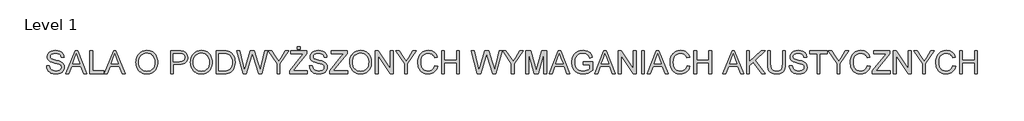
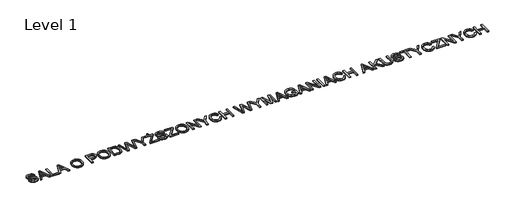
# One storey, part 3 of 4: 1 proxy.
"""IFC4 building model written with IfcOpenShell, lengths in millimetres."""

from ifc_helpers import new_model, si_unit, origin, origin_with_axes, place, context, project, spatial, polyline, outline, extrude, element, save

model = new_model("IFC4")

# Units and contexts
model_context = context("Model", 3, world=origin())
ifc_project = project(units=[si_unit("LENGTHUNIT", "METRE", prefix="MILLI")], contexts=[model_context])

# Site, building, storey
site = spatial("IfcSite", under=ifc_project)
building = spatial("IfcBuilding", under=site)
storey = spatial("IfcBuildingStorey", under=building, Name="Level 1", Elevation=0.0)

# Proxy
placement = place(None, origin())
element("IfcBuildingElementProxy", 1, Name="600mm Arial", ObjectType="600mm Arial", at=placement, inside=storey, context=model_context, shape_type="SweptSolid", body=[
    extrude(outline(polyline([(-9094.9870049, -1373.0707326), (-9019.6447723, -1373.0707326), (-9010.9995454, -1414.8805213), (-8995.3645606, -1448.4865416), (-8970.9739843, -1475.1579862), (-8936.061983, -1496.1640482), (-8893.3876715, -1509.7940761), (-8845.710165, -1514.3374187), (-8803.7348293, -1510.8977221), (-8766.983418, -1500.5786321), (-8737.2033705, -1484.2446715), (-8716.1421262, -1462.760363), (-8703.6157443, -1438.0938752), (-8699.4402837, -1412.2133769), (-8702.5672806, -1386.9950661), (-8711.9482715, -1365.1980579), (-8731.0045589, -1346.601623), (-8763.1574452, -1330.9850323), (-8872.8598562, -1302.2166603), (-8944.8727568, -1283.1787671), (-8990.9499766, -1265.0605788), (-9028.4555461, -1239.7135093), (-9055.0350202, -1208.9953627), (-9070.8723401, -1173.5683266), (-9076.1514467, -1134.0945885), (-9074.5189704, -1111.6583853), (-9069.6215413, -1089.9671432), (-9061.4591595, -1069.0208621), (-9050.0318251, -1048.819542), (-9035.4682966, -1030.186319), (-9017.8973328, -1013.9443289), (-8997.3189337, -1000.0935718), (-8973.7330993, -988.6340476), (-8920.7213038, -973.2381861), (-8862.0441255, -968.1062323), (-8798.4741168, -973.4773094), (-8742.8503591, -989.5905408), (-8718.5149651, -1001.5926909), (-8697.1594153, -1016.1148327), (-8678.7837096, -1033.1569661), (-8663.3878481, -1052.7190912), (-8651.0913925, -1074.2309908), (-8642.0139042, -1097.122448), (-8636.1553834, -1121.3934626), (-8633.5158301, -1147.0440347), (-8708.8580627, -1147.0440347), (-8713.8980461, -1123.0029464), (-8722.6904258, -1102.0888549), (-8735.2352018, -1084.3017605), (-8751.5323742, -1069.641663), (-8771.8854456, -1058.1821388), (-8796.5979186, -1049.9967644), (-8825.6697933, -1045.0855398), (-8859.1010696, -1043.4484649), (-8893.5992037, -1045.0671457), (-8923.0757485, -1049.923188), (-8947.5307042, -1058.0165919), (-8966.9640706, -1069.3473574), (-8981.7713209, -1082.9681882), (-8992.3479282, -1097.9317884), (-8998.6938926, -1114.2381578), (-9000.8092141, -1131.8872965), (-8999.310095, -1147.0716259), (-8994.8127376, -1160.8396096), (-8987.3171419, -1173.1912475), (-8976.823308, -1184.1265399), (-8960.3054064, -1194.482418), (-8934.2961494, -1204.9486608), (-8853.8035688, -1226.2122401), (-8770.7358143, -1246.4089616), (-8720.4831338, -1264.0305092), (-8677.5329109, -1291.3641414), (-8660.9276373, -1307.4313876), (-8647.5689223, -1325.0989204), (-8637.3004162, -1344.2747694), (-8629.9657689, -1364.8669641), (-8624.0980511, -1410.3003905), (-8625.7857097, -1433.8678308), (-8630.8486857, -1456.7454924), (-8639.2869789, -1478.9333752), (-8651.1005895, -1500.4314793), (-8666.0825838, -1520.4074716), (-8684.0260281, -1538.0290192), (-8704.9309224, -1553.296122), (-8728.7972669, -1566.20878), (-8754.9306841, -1576.4772862), (-8782.6367969, -1583.8119335), (-8842.767109, -1589.6796513), (-8881.3073465, -1588.0977588), (-8916.5826313, -1583.352081), (-8948.5929634, -1575.4426181), (-8977.3383428, -1564.3693701), (-9002.9935135, -1550.1139428), (-9025.7332193, -1532.6579421), (-9045.5574603, -1512.0013681), (-9062.4662365, -1488.1442207), (-9076.0870674, -1461.8590521), (-9086.0474724, -1433.9184146), (-9092.3474516, -1404.3223081), (-9094.9870049, -1373.0707326)])), origin_with_axes(), (0.0, 0.0, 1.0), 50.0),
    extrude(outline(polyline([(-8581.2765868, -1580.2618723), (-8340.681762, -977.5240114), (-8276.523142, -977.5240114), (-8035.9283172, -1580.2618723), (-8115.5379809, -1580.2618723), (-8184.5526432, -1391.9062907), (-8432.7994136, -1391.9062907), (-8501.6669231, -1580.2618723), (-8581.2765868, -1580.2618723)]), holes=[polyline([(-8405.1346875, -1316.5640581), (-8212.0702165, -1316.5640581), (-8266.3695989, -1168.3811905), (-8308.602452, -1052.866244), (-8346.1264155, -1155.4317442), (-8405.1346875, -1316.5640581)])]), origin_with_axes(), (0.0, 0.0, 1.0), 50.0),
    extrude(outline(polyline([(-7955.4357366, -1580.2618723), (-7955.4357366, -977.5240114), (-7880.093504, -977.5240114), (-7880.093504, -1504.9196396), (-7578.7245736, -1504.9196396), (-7578.7245736, -1580.2618723), (-7955.4357366, -1580.2618723)])), origin_with_axes(), (0.0, 0.0, 1.0), 50.0),
    extrude(outline(polyline([(-7564.1564466, -1580.2618723), (-7323.5616217, -977.5240114), (-7259.4030017, -977.5240114), (-7018.8081769, -1580.2618723), (-7098.4178407, -1580.2618723), (-7167.432503, -1391.9062907), (-7415.6792733, -1391.9062907), (-7484.5467828, -1580.2618723), (-7564.1564466, -1580.2618723)]), holes=[polyline([(-7388.0145473, -1316.5640581), (-7194.9500762, -1316.5640581), (-7249.2494587, -1168.3811905), (-7291.4823117, -1052.866244), (-7329.0062752, -1155.4317442), (-7388.0145473, -1316.5640581)])]), origin_with_axes(), (0.0, 0.0, 1.0), 50.0),
    extrude(outline(polyline([(-6731.1244567, -1286.8391929), (-6726.1028674, -1216.1414705), (-6711.0380997, -1153.5555461), (-6685.9301536, -1099.0814196), (-6669.6099886, -1074.8862806), (-6650.7790289, -1052.7190912), (-6607.6908502, -1015.7009654), (-6558.7717419, -989.259447), (-6504.021704, -973.394536), (-6443.4407364, -968.1062323), (-6402.8909435, -970.5894358), (-6364.3828957, -978.0390462), (-6327.9165929, -990.4550635), (-6293.4920352, -1007.8374878), (-6262.0749128, -1029.6620871), (-6234.630916, -1055.4046297), (-6211.1600447, -1085.0651156), (-6191.6622989, -1118.6435447), (-6176.3400138, -1155.3765619), (-6165.3955245, -1194.5008121), (-6158.8288309, -1236.0162953), (-6156.639933, -1279.9230114), (-6158.943794, -1324.4091417), (-6165.855377, -1366.4856449), (-6177.374682, -1406.152521), (-6193.5017089, -1443.4097701), (-6213.8547803, -1477.2733077), (-6238.0522185, -1506.7590496), (-6266.0940236, -1531.8669958), (-6297.9801956, -1552.5971462), (-6332.455337, -1568.8207422), (-6368.2640507, -1580.4090251), (-6405.4063367, -1587.3619948), (-6443.8821948, -1589.6796513), (-6485.1401606, -1587.1182729), (-6524.1540462, -1579.4341378), (-6560.9238516, -1566.6272458), (-6595.4495769, -1548.6975971), (-6626.829911, -1526.3395688), (-6654.1635433, -1500.2475383), (-6677.4504736, -1470.4215055), (-6696.6907019, -1436.8614705), (-6711.7554696, -1400.9148011), (-6722.516018, -1363.928865), (-6728.972347, -1325.9036623), (-6731.1244567, -1286.8391929)]), holes=[polyline([(-6655.7822241, -1287.5749569), (-6652.0160321, -1337.5241348), (-6640.7174564, -1381.8631123), (-6621.8864967, -1420.5918893), (-6595.5231533, -1453.7104659), (-6563.4760329, -1480.2347578), (-6527.5937428, -1499.1806805), (-6487.8762829, -1510.5482342), (-6444.3236532, -1514.3374187), (-6400.0260625, -1510.511446), (-6359.839553, -1499.0335277), (-6323.7641249, -1479.903664), (-6291.799778, -1453.1218547), (-6265.6295726, -1419.3043023), (-6246.9365687, -1379.0672091), (-6235.7207664, -1332.4105751), (-6231.9821656, -1279.3344002), (-6233.5824523, -1244.8546602), (-6238.3833123, -1212.6373945), (-6246.3847457, -1182.682603), (-6257.5867525, -1154.9902858), (-6271.8651724, -1129.9237264), (-6289.0958454, -1107.8462082), (-6309.2787713, -1088.7577311), (-6332.4139503, -1072.6582953), (-6357.7840124, -1059.8789945), (-6384.6715877, -1050.7509225), (-6413.0766763, -1045.2740793), (-6442.9992781, -1043.4484649), (-6485.0389931, -1046.9663365), (-6524.0436816, -1057.5199512), (-6560.0133437, -1075.1093091), (-6592.9479793, -1099.7344102), (-6620.4379614, -1132.5816738), (-6640.0736629, -1174.8375195), (-6651.8550838, -1226.5019472), (-6655.7822241, -1287.5749569)])]), origin_with_axes(), (0.0, 0.0, 1.0), 50.0),
    extrude(outline(polyline([(-5817.5998863, -1580.2618723), (-5817.5998863, -977.5240114), (-5594.2219388, -977.5240114), (-5542.2034247, -978.9587511), (-5504.1644264, -983.2629705), (-5464.0101066, -993.9867306), (-5430.9559093, -1011.4427313), (-5404.339647, -1036.4219188), (-5383.4991319, -1069.7152394), (-5370.0346509, -1108.9866423), (-5365.5464906, -1151.9000771), (-5368.5769185, -1188.8998087), (-5377.6682023, -1222.9380903), (-5392.820342, -1254.0149219), (-5414.0333375, -1282.1303034), (-5443.155796, -1305.4356278), (-5482.0363244, -1322.082288), (-5530.6749226, -1332.0702842), (-5589.0715908, -1335.3996163), (-5742.2576536, -1335.3996163), (-5742.2576536, -1580.2618723), (-5817.5998863, -1580.2618723)]), holes=[polyline([(-5742.2576536, -1260.0573837), (-5584.6570069, -1260.0573837), (-5548.4206304, -1258.3283383), (-5517.8496366, -1253.1412021), (-5492.9440255, -1244.4959753), (-5473.7037972, -1232.3926576), (-5459.3472023, -1217.153146), (-5449.0924917, -1199.0993371), (-5442.9396653, -1178.2312309), (-5440.8887232, -1154.5488274), (-5445.7263714, -1120.7036839), (-5460.2393161, -1092.1560411), (-5482.6249355, -1070.6717325), (-5511.0806079, -1058.0165919), (-5540.1432855, -1054.153831), (-5586.4228405, -1052.866244), (-5742.2576536, -1052.866244), (-5742.2576536, -1260.0573837)])]), origin_with_axes(), (0.0, 0.0, 1.0), 50.0),
    extrude(outline(polyline([(-5290.204258, -1286.8391929), (-5285.1826687, -1216.1414705), (-5270.117901, -1153.5555461), (-5245.0099549, -1099.0814196), (-5228.6897898, -1074.8862806), (-5209.8588302, -1052.7190912), (-5166.7706515, -1015.7009654), (-5117.8515432, -989.259447), (-5063.1015053, -973.394536), (-5002.5205377, -968.1062323), (-4961.9707448, -970.5894358), (-4923.462697, -978.0390462), (-4886.9963942, -990.4550635), (-4852.5718365, -1007.8374878), (-4821.1547141, -1029.6620871), (-4793.7107173, -1055.4046297), (-4770.239846, -1085.0651156), (-4750.7421002, -1118.6435447), (-4735.4198151, -1155.3765619), (-4724.4753258, -1194.5008121), (-4717.9086322, -1236.0162953), (-4715.7197343, -1279.9230114), (-4718.0235953, -1324.4091417), (-4724.9351783, -1366.4856449), (-4736.4544833, -1406.152521), (-4752.5815102, -1443.4097701), (-4772.9345816, -1477.2733077), (-4797.1320198, -1506.7590496), (-4825.1738249, -1531.8669958), (-4857.0599968, -1552.5971462), (-4891.5351383, -1568.8207422), (-4927.343852, -1580.4090251), (-4964.486138, -1587.3619948), (-5002.9619961, -1589.6796513), (-5044.2199619, -1587.1182729), (-5083.2338475, -1579.4341378), (-5120.0036529, -1566.6272458), (-5154.5293781, -1548.6975971), (-5185.9097123, -1526.3395688), (-5213.2433446, -1500.2475383), (-5236.5302749, -1470.4215055), (-5255.7705032, -1436.8614705), (-5270.8352709, -1400.9148011), (-5281.5958193, -1363.928865), (-5288.0521483, -1325.9036623), (-5290.204258, -1286.8391929)]), holes=[polyline([(-5214.8620254, -1287.5749569), (-5211.0958334, -1337.5241348), (-5199.7972577, -1381.8631123), (-5180.966298, -1420.5918893), (-5154.6029545, -1453.7104659), (-5122.5558342, -1480.2347578), (-5086.6735441, -1499.1806805), (-5046.9560842, -1510.5482342), (-5003.4034545, -1514.3374187), (-4959.1058638, -1510.511446), (-4918.9193543, -1499.0335277), (-4882.8439262, -1479.903664), (-4850.8795793, -1453.1218547), (-4824.7093739, -1419.3043023), (-4806.01637, -1379.0672091), (-4794.8005677, -1332.4105751), (-4791.0619669, -1279.3344002), (-4792.6622536, -1244.8546602), (-4797.4631136, -1212.6373945), (-4805.464547, -1182.682603), (-4816.6665538, -1154.9902858), (-4830.9449737, -1129.9237264), (-4848.1756467, -1107.8462082), (-4868.3585726, -1088.7577311), (-4891.4937516, -1072.6582953), (-4916.8638137, -1059.8789945), (-4943.751389, -1050.7509225), (-4972.1564776, -1045.2740793), (-5002.0790793, -1043.4484649), (-5044.1187943, -1046.9663365), (-5083.1234829, -1057.5199512), (-5119.093145, -1075.1093091), (-5152.0277806, -1099.7344102), (-5179.5177627, -1132.5816738), (-5199.1534642, -1174.8375195), (-5210.9348851, -1226.5019472), (-5214.8620254, -1287.5749569)])]), origin_with_axes(), (0.0, 0.0, 1.0), 50.0),
    extrude(outline(polyline([(-4612.1241645, -1580.2618723), (-4612.1241645, -977.5240114), (-4404.1972608, -977.5240114), (-4342.0619918, -979.6945151), (-4296.6285654, -986.2060264), (-4248.5831768, -1002.9446572), (-4208.042581, -1029.3217963), (-4185.7029468, -1050.8796812), (-4166.3615509, -1075.2334693), (-4150.0183933, -1102.3831605), (-4136.6734739, -1132.3287549), (-4126.3083987, -1164.794341), (-4118.9047735, -1199.5040073), (-4112.9818734, -1275.6555803), (-4116.9917871, -1340.3476291), (-4129.0215284, -1397.2773679), (-4147.3420518, -1445.7458207), (-4170.2243119, -1485.0540119), (-4196.5646627, -1516.0848582), (-4225.2594583, -1539.7212764), (-4258.203291, -1557.2508535), (-4297.290753, -1569.9611764), (-4342.5954207, -1577.6866983), (-4394.1908705, -1580.2618723), (-4612.1241645, -1580.2618723)]), holes=[polyline([(-4536.7819318, -1504.9196396), (-4403.4614968, -1504.9196396), (-4348.3159857, -1502.1973129), (-4306.4878029, -1494.0303326), (-4274.9235277, -1480.8969454), (-4250.5697396, -1463.2753978), (-4224.3949356, -1430.6626589), (-4204.731643, -1388.4482), (-4192.4259903, -1336.44808), (-4188.324106, -1274.4783579), (-4190.3336614, -1230.7371886), (-4196.3623276, -1192.3670965), (-4206.4101046, -1159.3680816), (-4220.4769924, -1131.7401437), (-4237.4225568, -1108.8578836), (-4256.1063636, -1090.0959019), (-4276.5284129, -1075.4541985), (-4298.6887046, -1064.9327734), (-4342.0252036, -1055.8828763), (-4405.521636, -1052.866244), (-4536.7819318, -1052.866244), (-4536.7819318, -1504.9196396)])]), origin_with_axes(), (0.0, 0.0, 1.0), 50.0),
    extrude(outline(polyline([(-3901.5233026, -1580.2618723), (-4065.892978, -977.5240114), (-3988.1963006, -977.5240114), (-3892.8412875, -1373.6593438), (-3863.4107279, -1495.943319), (-3831.9200291, -1387.7860124), (-3712.4319571, -977.5240114), (-3600.4486777, -977.5240114), (-3513.6285269, -1274.9198163), (-3476.4356571, -1385.2844148), (-3449.0284485, -1495.943319), (-3420.4808057, -1377.1910109), (-3324.2428757, -977.5240114), (-3246.5461984, -977.5240114), (-3411.0630266, -1580.2618723), (-3491.5556071, -1580.2618723), (-3636.0596549, -1115.2590304), (-3656.2195882, -1050.3646464), (-3678.8811191, -1128.5027822), (-3810.5828734, -1580.2618723), (-3901.5233026, -1580.2618723)])), origin_with_axes(), (0.0, 0.0, 1.0), 50.0),
    extrude(outline(polyline([(-3001.6839424, -1580.2618723), (-3001.6839424, -1324.9517676), (-3237.1284193, -977.5240114), (-3148.2481292, -977.5240114), (-3022.5796397, -1163.0836897), (-2958.2738669, -1257.7029389), (-2893.8209414, -1156.314661), (-2779.7775229, -977.5240114), (-2690.8972328, -977.5240114), (-2926.3417098, -1324.9517676), (-2926.3417098, -1580.2618723), (-3001.6839424, -1580.2618723)])), origin_with_axes(), (0.0, 0.0, 1.0), 50.0),
    extrude(outline(polyline([(-2464.870535, -939.8528951), (-2464.870535, -864.5106624), (-2389.5283024, -864.5106624), (-2389.5283024, -939.8528951), (-2464.870535, -939.8528951)])), origin_with_axes(), (0.0, 0.0, 1.0), 50.0),
    extrude(outline(polyline([(-2672.0616747, -1580.2618723), (-2672.0616747, -1502.1237365), (-2363.7765627, -1124.6768094), (-2305.2097491, -1052.866244), (-2634.3905584, -1052.866244), (-2634.3905584, -977.5240114), (-2210.5904999, -977.5240114), (-2210.5904999, -1052.866244), (-2548.0118659, -1465.9241482), (-2579.7968703, -1504.9196396), (-2201.1727209, -1504.9196396), (-2201.1727209, -1580.2618723), (-2672.0616747, -1580.2618723)])), origin_with_axes(), (0.0, 0.0, 1.0), 50.0),
    extrude(outline(polyline([(-2144.6660464, -1373.0707326), (-2069.3238138, -1373.0707326), (-2060.6785869, -1414.8805213), (-2045.0436021, -1448.4865416), (-2020.6530258, -1475.1579862), (-1985.7410245, -1496.1640482), (-1943.066713, -1509.7940761), (-1895.3892065, -1514.3374187), (-1853.4138708, -1510.8977221), (-1816.6624595, -1500.5786321), (-1786.882412, -1484.2446715), (-1765.8211678, -1462.760363), (-1753.2947858, -1438.0938752), (-1749.1193252, -1412.2133769), (-1752.2463222, -1386.9950661), (-1761.627313, -1365.1980579), (-1780.6836004, -1346.601623), (-1812.8364868, -1330.9850323), (-1922.5388977, -1302.2166603), (-1994.5517983, -1283.1787671), (-2040.6290182, -1265.0605788), (-2078.1345876, -1239.7135093), (-2104.7140617, -1208.9953627), (-2120.5513816, -1173.5683266), (-2125.8304883, -1134.0945885), (-2124.1980119, -1111.6583853), (-2119.3005828, -1089.9671432), (-2111.1382011, -1069.0208621), (-2099.7108666, -1048.819542), (-2085.1473381, -1030.186319), (-2067.5763743, -1013.9443289), (-2046.9979752, -1000.0935718), (-2023.4121408, -988.6340476), (-1970.4003453, -973.2381861), (-1911.7231671, -968.1062323), (-1848.1531583, -973.4773094), (-1792.5294006, -989.5905408), (-1768.1940066, -1001.5926909), (-1746.8384568, -1016.1148327), (-1728.4627512, -1033.1569661), (-1713.0668897, -1052.7190912), (-1700.770434, -1074.2309908), (-1691.6929457, -1097.122448), (-1685.834425, -1121.3934626), (-1683.1948717, -1147.0440347), (-1758.5371043, -1147.0440347), (-1763.5770876, -1123.0029464), (-1772.3694673, -1102.0888549), (-1784.9142433, -1084.3017605), (-1801.2114157, -1069.641663), (-1821.5644871, -1058.1821388), (-1846.2769601, -1049.9967644), (-1875.3488348, -1045.0855398), (-1908.7801111, -1043.4484649), (-1943.2782452, -1045.0671457), (-1972.7547901, -1049.923188), (-1997.2097457, -1058.0165919), (-2016.6431121, -1069.3473574), (-2031.4503624, -1082.9681882), (-2042.0269698, -1097.9317884), (-2048.3729342, -1114.2381578), (-2050.4882556, -1131.8872965), (-2048.9891365, -1147.0716259), (-2044.4917791, -1160.8396096), (-2036.9961835, -1173.1912475), (-2026.5023496, -1184.1265399), (-2009.984448, -1194.482418), (-1983.9751909, -1204.9486608), (-1903.4826104, -1226.2122401), (-1820.4148559, -1246.4089616), (-1770.1621753, -1264.0305092), (-1727.2119524, -1291.3641414), (-1710.6066788, -1307.4313876), (-1697.2479639, -1325.0989204), (-1686.9794577, -1344.2747694), (-1679.6448104, -1364.8669641), (-1673.7770926, -1410.3003905), (-1675.4647512, -1433.8678308), (-1680.5277272, -1456.7454924), (-1688.9660205, -1478.9333752), (-1700.779631, -1500.4314793), (-1715.7616253, -1520.4074716), (-1733.7050696, -1538.0290192), (-1754.609964, -1553.296122), (-1778.4763084, -1566.20878), (-1804.6097256, -1576.4772862), (-1832.3158384, -1583.8119335), (-1892.4461505, -1589.6796513), (-1930.986388, -1588.0977588), (-1966.2616728, -1583.352081), (-1998.272005, -1575.4426181), (-2027.0173843, -1564.3693701), (-2052.672555, -1550.1139428), (-2075.4122608, -1532.6579421), (-2095.2365018, -1512.0013681), (-2112.145278, -1488.1442207), (-2125.7661089, -1461.8590521), (-2135.7265139, -1433.9184146), (-2142.0264931, -1404.3223081), (-2144.6660464, -1373.0707326)])), origin_with_axes(), (0.0, 0.0, 1.0), 50.0),
    extrude(outline(polyline([(-1607.852639, -1580.2618723), (-1607.852639, -1502.1237365), (-1299.5675271, -1124.6768094), (-1241.0007135, -1052.866244), (-1570.1815227, -1052.866244), (-1570.1815227, -977.5240114), (-1146.3814643, -977.5240114), (-1146.3814643, -1052.866244), (-1483.8028303, -1465.9241482), (-1515.5878347, -1504.9196396), (-1136.9636852, -1504.9196396), (-1136.9636852, -1580.2618723), (-1607.852639, -1580.2618723)])), origin_with_axes(), (0.0, 0.0, 1.0), 50.0),
    extrude(outline(polyline([(-1080.4570108, -1286.8391929), (-1075.4354215, -1216.1414705), (-1060.3706538, -1153.5555461), (-1035.2627077, -1099.0814196), (-1018.9425426, -1074.8862806), (-1000.111583, -1052.7190912), (-957.0234043, -1015.7009654), (-908.104296, -989.259447), (-853.3542581, -973.394536), (-792.7732905, -968.1062323), (-752.2234976, -970.5894358), (-713.7154498, -978.0390462), (-677.249147, -990.4550635), (-642.8245893, -1007.8374878), (-611.4074669, -1029.6620871), (-583.9634701, -1055.4046297), (-560.4925988, -1085.0651156), (-540.994853, -1118.6435447), (-525.6725679, -1155.3765619), (-514.7280786, -1194.5008121), (-508.161385, -1236.0162953), (-505.9724871, -1279.9230114), (-508.2763481, -1324.4091417), (-515.1879311, -1366.4856449), (-526.707236, -1406.152521), (-542.834263, -1443.4097701), (-563.1873344, -1477.2733077), (-587.3847726, -1506.7590496), (-615.4265777, -1531.8669958), (-647.3127496, -1552.5971462), (-681.7878911, -1568.8207422), (-717.5966048, -1580.4090251), (-754.7388908, -1587.3619948), (-793.2147489, -1589.6796513), (-834.4727147, -1587.1182729), (-873.4866003, -1579.4341378), (-910.2564057, -1566.6272458), (-944.7821309, -1548.6975971), (-976.1624651, -1526.3395688), (-1003.4960974, -1500.2475383), (-1026.7830277, -1470.4215055), (-1046.023256, -1436.8614705), (-1061.0880237, -1400.9148011), (-1071.8485721, -1363.928865), (-1078.3049011, -1325.9036623), (-1080.4570108, -1286.8391929)]), holes=[polyline([(-1005.1147781, -1287.5749569), (-1001.3485862, -1337.5241348), (-990.0500104, -1381.8631123), (-971.2190508, -1420.5918893), (-944.8557073, -1453.7104659), (-912.808587, -1480.2347578), (-876.9262969, -1499.1806805), (-837.208837, -1510.5482342), (-793.6562073, -1514.3374187), (-749.3586166, -1510.511446), (-709.1721071, -1499.0335277), (-673.096679, -1479.903664), (-641.1323321, -1453.1218547), (-614.9621267, -1419.3043023), (-596.2691228, -1379.0672091), (-585.0533205, -1332.4105751), (-581.3147197, -1279.3344002), (-582.9150064, -1244.8546602), (-587.7158664, -1212.6373945), (-595.7172998, -1182.682603), (-606.9193066, -1154.9902858), (-621.1977265, -1129.9237264), (-638.4283995, -1107.8462082), (-658.6113254, -1088.7577311), (-681.7465044, -1072.6582953), (-707.1165665, -1059.8789945), (-734.0041418, -1050.7509225), (-762.4092304, -1045.2740793), (-792.3318321, -1043.4484649), (-834.3715471, -1046.9663365), (-873.3762357, -1057.5199512), (-909.3458978, -1075.1093091), (-942.2805334, -1099.7344102), (-969.7705155, -1132.5816738), (-989.406217, -1174.8375195), (-1001.1876378, -1226.5019472), (-1005.1147781, -1287.5749569)])]), origin_with_axes(), (0.0, 0.0, 1.0), 50.0),
    extrude(outline(polyline([(-402.3769172, -1580.2618723), (-402.3769172, -977.5240114), (-321.7371839, -977.5240114), (-6.830196, -1455.0348411), (-6.830196, -977.5240114), (68.5120366, -977.5240114), (68.5120366, -1580.2618723), (-12.1276968, -1580.2618723), (-327.0346846, -1102.6038897), (-327.0346846, -1580.2618723), (-402.3769172, -1580.2618723)])), origin_with_axes(), (0.0, 0.0, 1.0), 50.0),
    extrude(outline(polyline([(369.880967, -1580.2618723), (369.880967, -1324.9517676), (134.4364901, -977.5240114), (223.3167801, -977.5240114), (348.9852697, -1163.0836897), (413.2910425, -1257.7029389), (477.743968, -1156.314661), (591.7873865, -977.5240114), (680.6676766, -977.5240114), (445.2231996, -1324.9517676), (445.2231996, -1580.2618723), (369.880967, -1580.2618723)])), origin_with_axes(), (0.0, 0.0, 1.0), 50.0),
    extrude(outline(polyline([(1170.3921885, -1366.0073983), (1245.7344211, -1385.4315676), (1230.8260033, -1432.2859382), (1210.9695726, -1473.2266058), (1186.1651291, -1508.2535702), (1156.4126727, -1537.3668316), (1122.3835882, -1560.2536902), (1084.7492601, -1576.6014464), (1043.5096884, -1586.4101001), (998.6648732, -1589.6796513), (952.7210105, -1587.2056449), (911.2745052, -1579.7836257), (874.3253573, -1567.4135936), (841.8735668, -1550.0955487), (813.4730768, -1528.0870083), (788.6778303, -1501.6454899), (767.4878274, -1470.7709934), (749.903068, -1435.463519), (736.0936976, -1397.2497767), (726.2298617, -1357.656477), (720.3115601, -1316.6836198), (718.3387929, -1274.3312051), (720.5690775, -1228.8885816), (727.2599312, -1186.4441964), (738.4113542, -1146.9980495), (754.0233464, -1110.5501408), (773.7464199, -1077.7028772), (797.2310867, -1049.0586653), (824.477347, -1024.6175053), (855.4852007, -1004.379397), (889.2015855, -988.5098874), (924.5734394, -977.1745235), (961.6007622, -970.3733051), (1000.283554, -968.1062323), (1043.3763312, -971.0400912), (1082.891456, -979.8416679), (1118.8289284, -994.5109625), (1151.1887484, -1015.0479749), (1179.4374871, -1040.9100791), (1203.0417156, -1071.5546493), (1222.0014339, -1106.9816855), (1236.3166421, -1147.1911875), (1160.9744095, -1165.1438289), (1149.1102151, -1135.5155327), (1134.8547878, -1110.2006529), (1118.2081275, -1089.1991895), (1099.1702343, -1072.5111425), (1077.6307434, -1059.7962211), (1053.4792905, -1050.7141343), (1026.7158753, -1045.2648822), (997.340498, -1043.4484649), (963.5413397, -1045.4626188), (932.630055, -1051.5050806), (904.6066441, -1061.5758502), (879.4711067, -1075.6749277), (857.5407413, -1093.1677165), (839.132846, -1113.4196204), (824.2474207, -1136.4306392), (812.8844656, -1162.2007729), (798.4818855, -1217.346284), (793.6810255, -1274.1840523), (799.3648023, -1343.7873258), (806.4695233, -1375.0572953), (816.4161328, -1403.9728202), (829.365579, -1429.9590846), (845.4788104, -1452.441273), (864.7558269, -1471.4193855), (887.1966286, -1486.8934219), (911.7113651, -1498.9001705), (937.2101859, -1507.4764195), (963.693091, -1512.6221689), (991.1600805, -1514.3374187), (1023.9153736, -1512.0013681), (1054.0495076, -1504.993216), (1081.5624823, -1493.3129627), (1106.4542978, -1476.960608), (1128.1363429, -1456.0097284), (1146.0200063, -1430.5339002), (1160.1052882, -1400.5331235), (1170.3921885, -1366.0073983)])), origin_with_axes(), (0.0, 0.0, 1.0), 50.0),
    extrude(outline(polyline([(1349.329991, -1580.2618723), (1349.329991, -977.5240114), (1424.6722236, -977.5240114), (1424.6722236, -1222.3862674), (1744.8767122, -1222.3862674), (1744.8767122, -977.5240114), (1820.2189448, -977.5240114), (1820.2189448, -1580.2618723), (1744.8767122, -1580.2618723), (1744.8767122, -1297.7285), (1424.6722236, -1297.7285), (1424.6722236, -1580.2618723), (1349.329991, -1580.2618723)])), origin_with_axes(), (0.0, 0.0, 1.0), 50.0),
    extrude(outline(polyline([(2295.3753298, -1580.2618723), (2131.0056543, -977.5240114), (2208.7023317, -977.5240114), (2304.0573449, -1373.6593438), (2333.4879045, -1495.943319), (2364.9786033, -1387.7860124), (2484.4666753, -977.5240114), (2596.4499546, -977.5240114), (2683.2701055, -1274.9198163), (2720.4629752, -1385.2844148), (2747.8701838, -1495.943319), (2776.4178267, -1377.1910109), (2872.6557566, -977.5240114), (2950.352434, -977.5240114), (2785.8356058, -1580.2618723), (2705.3430252, -1580.2618723), (2560.8389775, -1115.2590304), (2540.6790442, -1050.3646464), (2518.0175133, -1128.5027822), (2386.315759, -1580.2618723), (2295.3753298, -1580.2618723)])), origin_with_axes(), (0.0, 0.0, 1.0), 50.0),
    extrude(outline(polyline([(3195.21469, -1580.2618723), (3195.21469, -1324.9517676), (2959.7702131, -977.5240114), (3048.6505031, -977.5240114), (3174.3189927, -1163.0836897), (3238.6247654, -1257.7029389), (3303.077691, -1156.314661), (3417.1211095, -977.5240114), (3506.0013995, -977.5240114), (3270.5569226, -1324.9517676), (3270.5569226, -1580.2618723), (3195.21469, -1580.2618723)])), origin_with_axes(), (0.0, 0.0, 1.0), 50.0),
    extrude(outline(polyline([(3571.925853, -1580.2618723), (3571.925853, -977.5240114), (3701.5674681, -977.5240114), (3824.8815129, -1402.3541394), (3849.7503358, -1491.0872766), (3876.6792978, -1394.9964995), (3997.9332035, -977.5240114), (4127.5748186, -977.5240114), (4127.5748186, -1580.2618723), (4052.2325859, -1580.2618723), (4052.2325859, -1052.866244), (3900.8123567, -1580.2618723), (3798.6883149, -1580.2618723), (3647.2680857, -1052.866244), (3647.2680857, -1580.2618723), (3571.925853, -1580.2618723)])), origin_with_axes(), (0.0, 0.0, 1.0), 50.0),
    extrude(outline(polyline([(4189.231841, -1580.2618723), (4429.8266658, -977.5240114), (4493.9852858, -977.5240114), (4734.5801106, -1580.2618723), (4654.9704468, -1580.2618723), (4585.9557845, -1391.9062907), (4337.7090142, -1391.9062907), (4268.8415047, -1580.2618723), (4189.231841, -1580.2618723)]), holes=[polyline([(4365.3737402, -1316.5640581), (4558.4382113, -1316.5640581), (4504.1388288, -1168.3811905), (4461.9059758, -1052.866244), (4424.3820123, -1155.4317442), (4365.3737402, -1316.5640581)])]), origin_with_axes(), (0.0, 0.0, 1.0), 50.0),
    extrude(outline(polyline([(5097.6060634, -1344.8173953), (5097.6060634, -1269.4751627), (5342.4683194, -1269.4751627), (5342.4683194, -1494.7660966), (5282.9634067, -1536.152821), (5221.5822958, -1565.840898), (5158.4721395, -1583.719963), (5093.7800907, -1589.6796513), (5050.5033725, -1587.311411), (5009.2592023, -1580.20669), (4970.0475801, -1568.3654882), (4932.868506, -1551.7878058), (4898.9221949, -1530.7219631), (4869.4088618, -1505.4162803), (4844.3285068, -1475.8707576), (4823.6811298, -1442.0853949), (4807.5541029, -1405.1408455), (4796.0347979, -1366.1177629), (4789.1232149, -1325.016147), (4786.8193539, -1281.8359978), (4789.1140179, -1238.6512501), (4795.9980097, -1196.9472274), (4807.4713294, -1156.7239297), (4823.533977, -1117.9813571), (4843.900844, -1082.4209638), (4868.2868217, -1051.7442039), (4896.6919103, -1025.9510775), (4929.1161097, -1005.0415846), (4964.8558455, -988.882368), (5003.2075435, -977.3400704), (5044.1712036, -970.4146918), (5087.746826, -968.1062323), (5149.8085186, -973.4589153), (5205.6162172, -989.5169644), (5230.5356239, -1001.2707941), (5252.6131421, -1015.1215513), (5271.8487719, -1031.0692358), (5288.2425133, -1049.1138476), (5314.6012583, -1093.1309283), (5333.7863043, -1148.8098683), (5264.3301837, -1168.3811905), (5248.8239576, -1128.6683291), (5229.9700053, -1098.7043406), (5205.027606, -1076.1163861), (5171.2560389, -1058.5316267), (5130.9913545, -1047.2192553), (5086.5696036, -1043.4484649), (5034.5694836, -1047.5135609), (4990.1109445, -1059.7088491), (4953.3595331, -1078.507619), (4924.4807965, -1102.3831605), (4902.3159063, -1130.1030689), (4885.7060342, -1160.4349394), (4868.0476985, -1217.3094958), (4862.1615865, -1278.745789), (4863.9320186, -1316.3663215), (4869.2433149, -1350.7954778), (4878.0954754, -1382.0332577), (4890.4885002, -1410.0796613), (4906.2614407, -1434.8289225), (4925.2533487, -1456.1752753), (4947.4642242, -1474.1187196), (4972.8940671, -1488.6592555), (5000.3518595, -1499.8934519), (5028.6465834, -1507.9178779), (5057.7782389, -1512.7325335), (5087.746826, -1514.3374187), (5139.930887, -1509.4997705), (5190.827361, -1494.9868258), (5235.0283827, -1474.9924393), (5267.1260868, -1453.7104659), (5267.1260868, -1344.8173953), (5097.6060634, -1344.8173953)])), origin_with_axes(), (0.0, 0.0, 1.0), 50.0),
    extrude(outline(polyline([(5394.7075627, -1580.2618723), (5635.3023876, -977.5240114), (5699.4610076, -977.5240114), (5940.0558324, -1580.2618723), (5860.4461686, -1580.2618723), (5791.4315063, -1391.9062907), (5543.184736, -1391.9062907), (5474.3172265, -1580.2618723), (5394.7075627, -1580.2618723)]), holes=[polyline([(5570.849462, -1316.5640581), (5763.9139331, -1316.5640581), (5709.6145506, -1168.3811905), (5667.3816976, -1052.866244), (5629.8577341, -1155.4317442), (5570.849462, -1316.5640581)])]), origin_with_axes(), (0.0, 0.0, 1.0), 50.0),
    extrude(outline(polyline([(6020.5484129, -1580.2618723), (6020.5484129, -977.5240114), (6101.1881463, -977.5240114), (6416.0951342, -1455.0348411), (6416.0951342, -977.5240114), (6491.4373668, -977.5240114), (6491.4373668, -1580.2618723), (6410.7976334, -1580.2618723), (6095.8906456, -1102.6038897), (6095.8906456, -1580.2618723), (6020.5484129, -1580.2618723)])), origin_with_axes(), (0.0, 0.0, 1.0), 50.0),
    extrude(outline(polyline([(6632.7040529, -1580.2618723), (6632.7040529, -977.5240114), (6708.0462855, -977.5240114), (6708.0462855, -1580.2618723), (6632.7040529, -1580.2618723)])), origin_with_axes(), (0.0, 0.0, 1.0), 50.0),
    extrude(outline(polyline([(6788.5388661, -1580.2618723), (7029.1336909, -977.5240114), (7093.2923109, -977.5240114), (7333.8871357, -1580.2618723), (7254.277472, -1580.2618723), (7185.2628097, -1391.9062907), (6937.0160393, -1391.9062907), (6868.1485298, -1580.2618723), (6788.5388661, -1580.2618723)]), holes=[polyline([(6964.6807654, -1316.5640581), (7157.7452364, -1316.5640581), (7103.4458539, -1168.3811905), (7061.2130009, -1052.866244), (7023.6890374, -1155.4317442), (6964.6807654, -1316.5640581)])]), origin_with_axes(), (0.0, 0.0, 1.0), 50.0),
    extrude(outline(polyline([(7838.1797747, -1366.0073983), (7913.5220073, -1385.4315676), (7898.6135895, -1432.2859382), (7878.7571588, -1473.2266058), (7853.9527153, -1508.2535702), (7824.2002589, -1537.3668316), (7790.1711743, -1560.2536902), (7752.5368462, -1576.6014464), (7711.2972746, -1586.4101001), (7666.4524594, -1589.6796513), (7620.5085967, -1587.2056449), (7579.0620914, -1579.7836257), (7542.1129435, -1567.4135936), (7509.661153, -1550.0955487), (7481.260663, -1528.0870083), (7456.4654165, -1501.6454899), (7435.2754136, -1470.7709934), (7417.6906542, -1435.463519), (7403.8812838, -1397.2497767), (7394.0174478, -1357.656477), (7388.0991462, -1316.6836198), (7386.126379, -1274.3312051), (7388.3566636, -1228.8885816), (7395.0475174, -1186.4441964), (7406.1989404, -1146.9980495), (7421.8109326, -1110.5501408), (7441.534006, -1077.7028772), (7465.0186729, -1049.0586653), (7492.2649332, -1024.6175053), (7523.2727868, -1004.379397), (7556.9891717, -988.5098874), (7592.3610255, -977.1745235), (7629.3883483, -970.3733051), (7668.0711401, -968.1062323), (7711.1639174, -971.0400912), (7750.6790422, -979.8416679), (7786.6165146, -994.5109625), (7818.9763346, -1015.0479749), (7847.2250733, -1040.9100791), (7870.8293018, -1071.5546493), (7889.7890201, -1106.9816855), (7904.1042282, -1147.1911875), (7828.7619956, -1165.1438289), (7816.8978013, -1135.5155327), (7802.642374, -1110.2006529), (7785.9957137, -1089.1991895), (7766.9578204, -1072.5111425), (7745.4183296, -1059.7962211), (7721.2668766, -1050.7141343), (7694.5034615, -1045.2648822), (7665.1280842, -1043.4484649), (7631.3289259, -1045.4626188), (7600.4176412, -1051.5050806), (7572.3942302, -1061.5758502), (7547.2586929, -1075.6749277), (7525.3283275, -1093.1677165), (7506.9204322, -1113.4196204), (7492.0350069, -1136.4306392), (7480.6720518, -1162.2007729), (7466.2694717, -1217.346284), (7461.4686116, -1274.1840523), (7467.1523885, -1343.7873258), (7474.2571095, -1375.0572953), (7484.203719, -1403.9728202), (7497.1531652, -1429.9590846), (7513.2663966, -1452.441273), (7532.5434131, -1471.4193855), (7554.9842148, -1486.8934219), (7579.4989513, -1498.9001705), (7604.9977721, -1507.4764195), (7631.4806772, -1512.6221689), (7658.9476667, -1514.3374187), (7691.7029598, -1512.0013681), (7721.8370937, -1504.993216), (7749.3500685, -1493.3129627), (7774.2418839, -1476.960608), (7795.923929, -1456.0097284), (7813.8075925, -1430.5339002), (7827.8928744, -1400.5331235), (7838.1797747, -1366.0073983)])), origin_with_axes(), (0.0, 0.0, 1.0), 50.0),
    extrude(outline(polyline([(8017.1175772, -1580.2618723), (8017.1175772, -977.5240114), (8092.4598098, -977.5240114), (8092.4598098, -1222.3862674), (8412.6642984, -1222.3862674), (8412.6642984, -977.5240114), (8488.006531, -977.5240114), (8488.006531, -1580.2618723), (8412.6642984, -1580.2618723), (8412.6642984, -1297.7285), (8092.4598098, -1297.7285), (8092.4598098, -1580.2618723), (8017.1175772, -1580.2618723)])), origin_with_axes(), (0.0, 0.0, 1.0), 50.0),
    extrude(outline(polyline([(8785.1080303, -1580.2618723), (9025.7028551, -977.5240114), (9089.8614751, -977.5240114), (9330.4562999, -1580.2618723), (9250.8466362, -1580.2618723), (9181.8319739, -1391.9062907), (8933.5852035, -1391.9062907), (8864.7176941, -1580.2618723), (8785.1080303, -1580.2618723)]), holes=[polyline([(8961.2499296, -1316.5640581), (9154.3144007, -1316.5640581), (9100.0150182, -1168.3811905), (9057.7821651, -1052.866244), (9020.2582016, -1155.4317442), (8961.2499296, -1316.5640581)])]), origin_with_axes(), (0.0, 0.0, 1.0), 50.0),
    extrude(outline(polyline([(9410.9488805, -1580.2618723), (9410.9488805, -977.5240114), (9486.2911131, -977.5240114), (9486.2911131, -1272.5653715), (9795.3119891, -977.5240114), (9900.6733925, -977.5240114), (9641.2430095, -1225.3293233), (9910.0911715, -1580.2618723), (9817.97352, -1580.2618723), (9587.8265438, -1276.2441914), (9486.2911131, -1373.0707326), (9486.2911131, -1580.2618723), (9410.9488805, -1580.2618723)])), origin_with_axes(), (0.0, 0.0, 1.0), 50.0),
    extrude(outline(polyline([(10362.1445672, -977.5240114), (10437.4867998, -977.5240114), (10437.4867998, -1325.2460732), (10432.3732401, -1406.6767528), (10425.9812904, -1440.3701451), (10417.0325609, -1469.3822389), (10404.7544993, -1494.8120818), (10388.3745535, -1517.7587213), (10367.8927234, -1538.2221573), (10343.3090091, -1556.2023898), (10314.5958193, -1570.8486917), (10281.7255631, -1581.3103359), (10244.6982403, -1587.5873225), (10203.5138509, -1589.6796513), (10163.3457356, -1587.8586355), (10127.01279, -1582.3955878), (10094.5150143, -1573.2905085), (10065.8524083, -1560.5433973), (10041.0203736, -1544.342794), (10020.0143117, -1524.8772379), (10002.8342225, -1502.1467291), (9989.4801061, -1476.1512676), (9979.4691173, -1445.9987396), (9972.318411, -1410.7970312), (9968.0279873, -1370.5461424), (9966.597846, -1325.2460732), (9966.597846, -977.5240114), (10041.9400786, -977.5240114), (10041.9400786, -1322.5973228), (10045.6556868, -1390.306004), (10056.8025112, -1437.4500817), (10065.5672998, -1454.8279075), (10076.9992328, -1470.0996088), (10091.0983102, -1483.2651857), (10107.8645322, -1494.3246382), (10148.1108224, -1509.3342236), (10196.4505166, -1514.3374187), (10237.9751968, -1511.8634123), (10273.0803362, -1504.4413931), (10301.7659348, -1492.071361), (10324.0319925, -1474.753316), (10340.706244, -1450.399528), (10352.6164235, -1416.9222664), (10359.7625313, -1374.3215314), (10362.1445672, -1322.5973228), (10362.1445672, -977.5240114)])), origin_with_axes(), (0.0, 0.0, 1.0), 50.0),
    extrude(outline(polyline([(10541.0823697, -1373.0707326), (10616.4246023, -1373.0707326), (10625.0698292, -1414.8805213), (10640.704814, -1448.4865416), (10665.0953902, -1475.1579862), (10700.0073916, -1496.1640482), (10742.681703, -1509.7940761), (10790.3592096, -1514.3374187), (10832.3345453, -1510.8977221), (10869.0859566, -1500.5786321), (10898.8660041, -1484.2446715), (10919.9272483, -1462.760363), (10932.4536302, -1438.0938752), (10936.6290909, -1412.2133769), (10933.5020939, -1386.9950661), (10924.1211031, -1365.1980579), (10905.0648157, -1346.601623), (10872.9119293, -1330.9850323), (10763.2095184, -1302.2166603), (10691.1966178, -1283.1787671), (10645.1193979, -1265.0605788), (10607.6138285, -1239.7135093), (10581.0343543, -1208.9953627), (10565.1970345, -1173.5683266), (10559.9179278, -1134.0945885), (10561.5504042, -1111.6583853), (10566.4478332, -1089.9671432), (10574.610215, -1069.0208621), (10586.0375495, -1048.819542), (10600.601078, -1030.186319), (10618.1720418, -1013.9443289), (10638.7504409, -1000.0935718), (10662.3362753, -988.6340476), (10715.3480708, -973.2381861), (10774.025249, -968.1062323), (10837.5952578, -973.4773094), (10893.2190155, -989.5905408), (10917.5544094, -1001.5926909), (10938.9099593, -1016.1148327), (10957.2856649, -1033.1569661), (10972.6815264, -1052.7190912), (10984.9779821, -1074.2309908), (10994.0554703, -1097.122448), (10999.9139911, -1121.3934626), (11002.5535444, -1147.0440347), (10927.2113118, -1147.0440347), (10922.1713285, -1123.0029464), (10913.3789488, -1102.0888549), (10900.8341728, -1084.3017605), (10884.5370004, -1069.641663), (10864.183929, -1058.1821388), (10839.471456, -1049.9967644), (10810.3995813, -1045.0855398), (10776.968305, -1043.4484649), (10742.4701709, -1045.0671457), (10712.993626, -1049.923188), (10688.5386704, -1058.0165919), (10669.105304, -1069.3473574), (10654.2980537, -1082.9681882), (10643.7214463, -1097.9317884), (10637.3754819, -1114.2381578), (10635.2601604, -1131.8872965), (10636.7592796, -1147.0716259), (10641.256637, -1160.8396096), (10648.7522326, -1173.1912475), (10659.2460665, -1184.1265399), (10675.7639681, -1194.482418), (10701.7732252, -1204.9486608), (10782.2658057, -1226.2122401), (10865.3335602, -1246.4089616), (10915.5862408, -1264.0305092), (10958.5364637, -1291.3641414), (10975.1417373, -1307.4313876), (10988.5004522, -1325.0989204), (10998.7689584, -1344.2747694), (11006.1036057, -1364.8669641), (11011.9713235, -1410.3003905), (11010.2836648, -1433.8678308), (11005.2206889, -1456.7454924), (10996.7823956, -1478.9333752), (10984.9687851, -1500.4314793), (10969.9867908, -1520.4074716), (10952.0433465, -1538.0290192), (10931.1384521, -1553.296122), (10907.2721077, -1566.20878), (10881.1386904, -1576.4772862), (10853.4325777, -1583.8119335), (10793.3022656, -1589.6796513), (10754.762028, -1588.0977588), (10719.4867432, -1583.352081), (10687.4764111, -1575.4426181), (10658.7310317, -1564.3693701), (10633.0758611, -1550.1139428), (10610.3361553, -1532.6579421), (10590.5119143, -1512.0013681), (10573.603138, -1488.1442207), (10559.9823072, -1461.8590521), (10550.0219022, -1433.9184146), (10543.721923, -1404.3223081), (10541.0823697, -1373.0707326)])), origin_with_axes(), (0.0, 0.0, 1.0), 50.0),
    extrude(outline(polyline([(11275.6691376, -1580.2618723), (11275.6691376, -1052.866244), (11077.895777, -1052.866244), (11077.895777, -977.5240114), (11548.7847309, -977.5240114), (11548.7847309, -1052.866244), (11351.0113703, -1052.866244), (11351.0113703, -1580.2618723), (11275.6691376, -1580.2618723)])), origin_with_axes(), (0.0, 0.0, 1.0), 50.0),
    extrude(outline(polyline([(11803.0647659, -1580.2618723), (11803.0647659, -1324.9517676), (11567.620289, -977.5240114), (11656.500579, -977.5240114), (11782.1690686, -1163.0836897), (11846.4748414, -1257.7029389), (11910.9277669, -1156.314661), (12024.9711854, -977.5240114), (12113.8514755, -977.5240114), (11878.4069985, -1324.9517676), (11878.4069985, -1580.2618723), (11803.0647659, -1580.2618723)])), origin_with_axes(), (0.0, 0.0, 1.0), 50.0),
    extrude(outline(polyline([(12603.5759874, -1366.0073983), (12678.91822, -1385.4315676), (12664.0098022, -1432.2859382), (12644.1533715, -1473.2266058), (12619.348928, -1508.2535702), (12589.5964716, -1537.3668316), (12555.5673871, -1560.2536902), (12517.933059, -1576.6014464), (12476.6934873, -1586.4101001), (12431.8486721, -1589.6796513), (12385.9048094, -1587.2056449), (12344.4583041, -1579.7836257), (12307.5091562, -1567.4135936), (12275.0573657, -1550.0955487), (12246.6568757, -1528.0870083), (12221.8616292, -1501.6454899), (12200.6716263, -1470.7709934), (12183.0868669, -1435.463519), (12169.2774966, -1397.2497767), (12159.4136606, -1357.656477), (12153.495359, -1316.6836198), (12151.5225918, -1274.3312051), (12153.7528764, -1228.8885816), (12160.4437301, -1186.4441964), (12171.5951531, -1146.9980495), (12187.2071453, -1110.5501408), (12206.9302188, -1077.7028772), (12230.4148856, -1049.0586653), (12257.6611459, -1024.6175053), (12288.6689996, -1004.379397), (12322.3853844, -988.5098874), (12357.7572383, -977.1745235), (12394.7845611, -970.3733051), (12433.4673529, -968.1062323), (12476.5601301, -971.0400912), (12516.0752549, -979.8416679), (12552.0127273, -994.5109625), (12584.3725473, -1015.0479749), (12612.621286, -1040.9100791), (12636.2255145, -1071.5546493), (12655.1852328, -1106.9816855), (12669.500441, -1147.1911875), (12594.1582084, -1165.1438289), (12582.294014, -1135.5155327), (12568.0385867, -1110.2006529), (12551.3919264, -1089.1991895), (12532.3540332, -1072.5111425), (12510.8145423, -1059.7962211), (12486.6630894, -1050.7141343), (12459.8996742, -1045.2648822), (12430.5242969, -1043.4484649), (12396.7251386, -1045.4626188), (12365.8138539, -1051.5050806), (12337.790443, -1061.5758502), (12312.6549056, -1075.6749277), (12290.7245402, -1093.1677165), (12272.3166449, -1113.4196204), (12257.4312196, -1136.4306392), (12246.0682645, -1162.2007729), (12231.6656844, -1217.346284), (12226.8648244, -1274.1840523), (12232.5486012, -1343.7873258), (12239.6533222, -1375.0572953), (12249.5999317, -1403.9728202), (12262.5493779, -1429.9590846), (12278.6626093, -1452.441273), (12297.9396258, -1471.4193855), (12320.3804275, -1486.8934219), (12344.895164, -1498.9001705), (12370.3939848, -1507.4764195), (12396.8768899, -1512.6221689), (12424.3438794, -1514.3374187), (12457.0991725, -1512.0013681), (12487.2333065, -1504.993216), (12514.7462812, -1493.3129627), (12539.6380967, -1476.960608), (12561.3201418, -1456.0097284), (12579.2038053, -1430.5339002), (12593.2890871, -1400.5331235), (12603.5759874, -1366.0073983)])), origin_with_axes(), (0.0, 0.0, 1.0), 50.0),
    extrude(outline(polyline([(12735.4248945, -1580.2618723), (12735.4248945, -1502.1237365), (13043.7100065, -1124.6768094), (13102.2768201, -1052.866244), (12773.0960108, -1052.866244), (12773.0960108, -977.5240114), (13196.8960693, -977.5240114), (13196.8960693, -1052.866244), (12859.4747033, -1465.9241482), (12827.6896989, -1504.9196396), (13206.3138483, -1504.9196396), (13206.3138483, -1580.2618723), (12735.4248945, -1580.2618723)])), origin_with_axes(), (0.0, 0.0, 1.0), 50.0),
    extrude(outline(polyline([(13291.07386, -1580.2618723), (13291.07386, -977.5240114), (13371.7135934, -977.5240114), (13686.6205812, -1455.0348411), (13686.6205812, -977.5240114), (13761.9628138, -977.5240114), (13761.9628138, -1580.2618723), (13681.3230805, -1580.2618723), (13366.4160926, -1102.6038897), (13366.4160926, -1580.2618723), (13291.07386, -1580.2618723)])), origin_with_axes(), (0.0, 0.0, 1.0), 50.0),
    extrude(outline(polyline([(14063.3317443, -1580.2618723), (14063.3317443, -1324.9517676), (13827.8872674, -977.5240114), (13916.7675574, -977.5240114), (14042.436047, -1163.0836897), (14106.7418197, -1257.7029389), (14171.1947453, -1156.314661), (14285.2381638, -977.5240114), (14374.1184538, -977.5240114), (14138.6739769, -1324.9517676), (14138.6739769, -1580.2618723), (14063.3317443, -1580.2618723)])), origin_with_axes(), (0.0, 0.0, 1.0), 50.0),
    extrude(outline(polyline([(14863.8429658, -1366.0073983), (14939.1851984, -1385.4315676), (14924.2767806, -1432.2859382), (14904.4203499, -1473.2266058), (14879.6159063, -1508.2535702), (14849.86345, -1537.3668316), (14815.8343654, -1560.2536902), (14778.2000373, -1576.6014464), (14736.9604657, -1586.4101001), (14692.1156505, -1589.6796513), (14646.1717878, -1587.2056449), (14604.7252825, -1579.7836257), (14567.7761346, -1567.4135936), (14535.3243441, -1550.0955487), (14506.9238541, -1528.0870083), (14482.1286076, -1501.6454899), (14460.9386047, -1470.7709934), (14443.3538453, -1435.463519), (14429.5444749, -1397.2497767), (14419.6806389, -1357.656477), (14413.7623373, -1316.6836198), (14411.7895701, -1274.3312051), (14414.0198547, -1228.8885816), (14420.7107085, -1186.4441964), (14431.8621315, -1146.9980495), (14447.4741237, -1110.5501408), (14467.1971971, -1077.7028772), (14490.681864, -1049.0586653), (14517.9281243, -1024.6175053), (14548.9359779, -1004.379397), (14582.6523628, -988.5098874), (14618.0242166, -977.1745235), (14655.0515394, -970.3733051), (14693.7343312, -968.1062323), (14736.8271084, -971.0400912), (14776.3422332, -979.8416679), (14812.2797056, -994.5109625), (14844.6395257, -1015.0479749), (14872.8882644, -1040.9100791), (14896.4924929, -1071.5546493), (14915.4522112, -1106.9816855), (14929.7674193, -1147.1911875), (14854.4251867, -1165.1438289), (14842.5609924, -1135.5155327), (14828.3055651, -1110.2006529), (14811.6589048, -1089.1991895), (14792.6210115, -1072.5111425), (14771.0815207, -1059.7962211), (14746.9300677, -1050.7141343), (14720.1666526, -1045.2648822), (14690.7912753, -1043.4484649), (14656.992117, -1045.4626188), (14626.0808323, -1051.5050806), (14598.0574213, -1061.5758502), (14572.921884, -1075.6749277), (14550.9915186, -1093.1677165), (14532.5836232, -1113.4196204), (14517.698198, -1136.4306392), (14506.3352429, -1162.2007729), (14491.9326628, -1217.346284), (14487.1318027, -1274.1840523), (14492.8155796, -1343.7873258), (14499.9203006, -1375.0572953), (14509.86691, -1403.9728202), (14522.8163563, -1429.9590846), (14538.9295877, -1452.441273), (14558.2066042, -1471.4193855), (14580.6474059, -1486.8934219), (14605.1621424, -1498.9001705), (14630.6609632, -1507.4764195), (14657.1438683, -1512.6221689), (14684.6108577, -1514.3374187), (14717.3661509, -1512.0013681), (14747.5002848, -1504.993216), (14775.0132595, -1493.3129627), (14799.905075, -1476.960608), (14821.5871201, -1456.0097284), (14839.4707836, -1430.5339002), (14853.5560655, -1400.5331235), (14863.8429658, -1366.0073983)])), origin_with_axes(), (0.0, 0.0, 1.0), 50.0),
    extrude(outline(polyline([(15042.7807683, -1580.2618723), (15042.7807683, -977.5240114), (15118.1230009, -977.5240114), (15118.1230009, -1222.3862674), (15438.3274895, -1222.3862674), (15438.3274895, -977.5240114), (15513.6697221, -977.5240114), (15513.6697221, -1580.2618723), (15438.3274895, -1580.2618723), (15438.3274895, -1297.7285), (15118.1230009, -1297.7285), (15118.1230009, -1580.2618723), (15042.7807683, -1580.2618723)])), origin_with_axes(), (0.0, 0.0, 1.0), 50.0),
])

save(model, "model.ifc")
